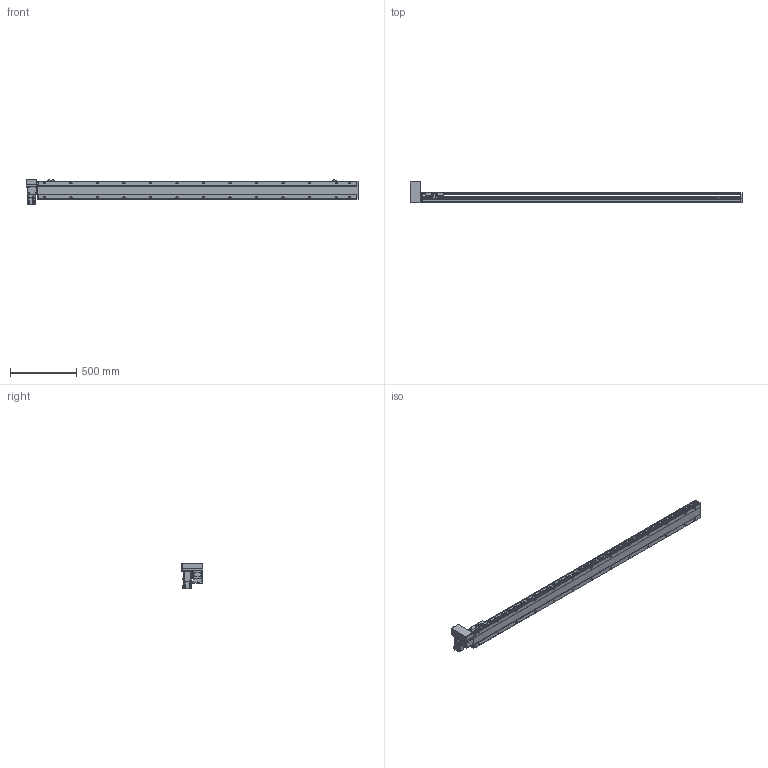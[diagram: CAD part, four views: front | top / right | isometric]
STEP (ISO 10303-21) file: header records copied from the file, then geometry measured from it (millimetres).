
FILE_DESCRIPTION( ( 'STEP AP214' ), '1' );
FILE_NAME( 'x:/temp/worker_1/temp/exporttempdir_5824_155_rSGs7/format_0/PBS140-P40-S2150-RU-T40-C1-N(0).stp', '2022-06-07T05:56:25', ( 'License CC BY-ND 4.0' ), ( 'CADENAS' ), ' ', 'PARTsolutions', ' ' );
FILE_SCHEMA( ( 'AUTOMOTIVE_DESIGN { 1 0 10303 214 1 1 1 1 }' ) );
Length unit declared in the file: millimetre
Products named in the file (7): PBS140-P40-S2150-RU-T40-C1-N(0); _PBS140-S2150()_body; _PBS140T-RU_motors; _T40-p1; _PBS140_sliser; _PBS140_plant; _PBS140_sensor
Assembly tree (8 placements, depth 2):
  PBS140-P40-S2150-RU-T40-C1-N(0)
    _PBS140-S2150()_body
    _PBS140T-RU_motors
    _T40-p1
    _PBS140_sliser
    _PBS140_plant
    _PBS140_sensor  x3
Bounding box: 2504 x 162.5 x 189.7 mm (x, y, z)
Volume: 11332795.1 mm3; surface area: 1937537.7 mm2
Topology: 8 solids, 8 shells, 1155 faces, 3036 edges, 1983 vertices
Faces by surface type: plane 722, cylinder 371, cone 52, sphere 8, torus 2
Full cylindrical faces by diameter (mm): 3.242 x4, 4 x2, 4.134 x4, 4.4 x8, 4.5 x2, 4.8 x4, 4.917 x34, 5.5 x7, 6 x2, 7 x28, 7.5 x8, 8 x12, 8.5 x4, 10.5 x26, 14 x1, 30 x2, 50 x2
Entity records: 42499 total; most frequent: CARTESIAN_POINT 7091, DIRECTION 5547, ORIENTED_EDGE 5212, EDGE_CURVE 2606, AXIS2_PLACEMENT_3D 1957, VERTEX_POINT 1821, LINE 1633, VECTOR 1633
